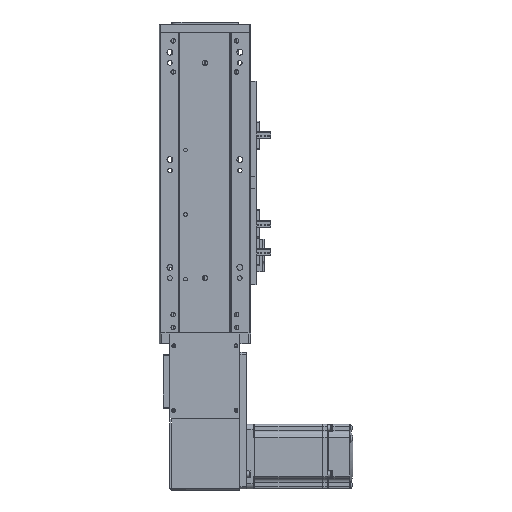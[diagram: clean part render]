
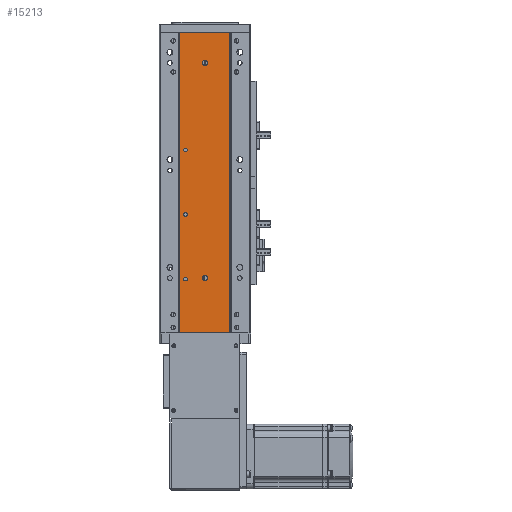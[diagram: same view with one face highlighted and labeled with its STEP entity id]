
A CAD part, front view. The second image highlights one B-rep face of the part: STEP entity #15213.
In plain terms, the highlighted planar face has unit normal (0, -1, 0).
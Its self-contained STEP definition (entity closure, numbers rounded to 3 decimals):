
#2155 = AXIS2_PLACEMENT_3D ( 'NONE', #67167, #67183, #67189 ) ;
#5475 = CARTESIAN_POINT ( 'NONE',  ( 0., 46.262, 279. ) ) ;
#5546 = DIRECTION ( 'NONE',  ( 1., 0., 0. ) ) ;
#5648 = CARTESIAN_POINT ( 'NONE',  ( 0., 46.262, 0. ) ) ;
#5668 = DIRECTION ( 'NONE',  ( 1., 0., 0. ) ) ;
#5909 = CARTESIAN_POINT ( 'NONE',  ( 144.878, 46.262, 251. ) ) ;
#5932 = DIRECTION ( 'NONE',  ( 0., 1., 0. ) ) ;
#5934 = DIRECTION ( 'NONE',  ( 0., 0., 1. ) ) ;
#5936 = CARTESIAN_POINT ( 'NONE',  ( 126.878, 46.262, 50. ) ) ;
#5953 = DIRECTION ( 'NONE',  ( 0., 0., -1. ) ) ;
#5974 = DIRECTION ( 'NONE',  ( 0., -1., 0. ) ) ;
#6020 = DIRECTION ( 'NONE',  ( 0., 1., 0. ) ) ;
#6036 = DIRECTION ( 'NONE',  ( 0., 0., 1. ) ) ;
#6087 = CARTESIAN_POINT ( 'NONE',  ( 126.878, 46.262, 110. ) ) ;
#6112 = DIRECTION ( 'NONE',  ( 0., 0., -1. ) ) ;
#6152 = DIRECTION ( 'NONE',  ( 0., -1., 0. ) ) ;
#6155 = DIRECTION ( 'NONE',  ( 0., 0., -1. ) ) ;
#6173 = CARTESIAN_POINT ( 'NONE',  ( 144.878, 46.262, 51. ) ) ;
#6174 = CARTESIAN_POINT ( 'NONE',  ( 121.584, 46.262, 279. ) ) ;
#6201 = DIRECTION ( 'NONE',  ( 0., 1., 0. ) ) ;
#6243 = CARTESIAN_POINT ( 'NONE',  ( 168.171, 46.262, 279. ) ) ;
#6264 = CARTESIAN_POINT ( 'NONE',  ( 126.878, 46.262, 170. ) ) ;
#6266 = DIRECTION ( 'NONE',  ( 0., 0., 1. ) ) ;
#6275 = DIRECTION ( 'NONE',  ( 0., 0., -1. ) ) ;
#7052 = CIRCLE ( 'NONE', #29335, 2.5 ) ;
#7064 = CIRCLE ( 'NONE', #29316, 1.65 ) ;
#7085 = LINE ( 'NONE', #5648, #7103 ) ;
#7103 = VECTOR ( 'NONE', #5668, 1000. ) ;
#7269 = CIRCLE ( 'NONE', #29331, 1.65 ) ;
#7644 = LINE ( 'NONE', #5475, #7645 ) ;
#7645 = VECTOR ( 'NONE', #5546, 1000. ) ;
#10292 = DIRECTION ( 'NONE',  ( 0., 1., 0. ) ) ;
#10313 = DIRECTION ( 'NONE',  ( 0., 0., 1. ) ) ;
#10319 = CARTESIAN_POINT ( 'NONE',  ( 126.878, 46.262, 50. ) ) ;
#10387 = DIRECTION ( 'NONE',  ( 0., 0., 1. ) ) ;
#10389 = CARTESIAN_POINT ( 'NONE',  ( 126.878, 46.262, 110. ) ) ;
#10402 = DIRECTION ( 'NONE',  ( 0., 0., -1. ) ) ;
#10403 = DIRECTION ( 'NONE',  ( 0., 1., 0. ) ) ;
#10412 = DIRECTION ( 'NONE',  ( 0., -1., 0. ) ) ;
#10416 = CARTESIAN_POINT ( 'NONE',  ( 144.878, 46.262, 51. ) ) ;
#10593 = DIRECTION ( 'NONE',  ( 0., 0., -1. ) ) ;
#10594 = DIRECTION ( 'NONE',  ( 0., -1., 0. ) ) ;
#10596 = CARTESIAN_POINT ( 'NONE',  ( 126.878, 46.262, 170. ) ) ;
#10604 = DIRECTION ( 'NONE',  ( 0., 1., 0. ) ) ;
#10607 = DIRECTION ( 'NONE',  ( 0., 0., 1. ) ) ;
#10611 = CARTESIAN_POINT ( 'NONE',  ( 144.878, 46.262, 251. ) ) ;
#11394 = CIRCLE ( 'NONE', #29106, 2.5 ) ;
#11425 = CIRCLE ( 'NONE', #29031, 1.65 ) ;
#11513 = CIRCLE ( 'NONE', #29089, 2.5 ) ;
#11515 = CIRCLE ( 'NONE', #29123, 1.65 ) ;
#11588 = CIRCLE ( 'NONE', #29091, 1.65 ) ;
#15213 = ADVANCED_FACE ( 'NONE', ( #69873, #69867, #69833, #69829, #69874, #69830 ), #67151, .F. ) ;
#25982 = EDGE_LOOP ( 'NONE', ( #35059, #35054, #35026, #35064 ) ) ;
#25996 = EDGE_LOOP ( 'NONE', ( #35046, #35080 ) ) ;
#26011 = EDGE_LOOP ( 'NONE', ( #35075, #35031 ) ) ;
#26015 = EDGE_LOOP ( 'NONE', ( #35040, #35036 ) ) ;
#26034 = EDGE_LOOP ( 'NONE', ( #35022, #35049 ) ) ;
#26044 = EDGE_LOOP ( 'NONE', ( #35055, #35025 ) ) ;
#29031 = AXIS2_PLACEMENT_3D ( 'NONE', #10596, #10604, #10607 ) ;
#29089 = AXIS2_PLACEMENT_3D ( 'NONE', #10416, #10412, #10402 ) ;
#29091 = AXIS2_PLACEMENT_3D ( 'NONE', #10389, #10403, #10387 ) ;
#29106 = AXIS2_PLACEMENT_3D ( 'NONE', #10611, #10594, #10593 ) ;
#29123 = AXIS2_PLACEMENT_3D ( 'NONE', #10319, #10292, #10313 ) ;
#29316 = AXIS2_PLACEMENT_3D ( 'NONE', #5936, #5932, #5934 ) ;
#29329 = AXIS2_PLACEMENT_3D ( 'NONE', #6173, #6152, #6112 ) ;
#29331 = AXIS2_PLACEMENT_3D ( 'NONE', #6087, #6020, #6036 ) ;
#29335 = AXIS2_PLACEMENT_3D ( 'NONE', #5909, #5974, #5953 ) ;
#29406 = AXIS2_PLACEMENT_3D ( 'NONE', #6264, #6201, #6266 ) ;
#35022 = ORIENTED_EDGE ( 'NONE', *, *, #43451, .T. ) ;
#35025 = ORIENTED_EDGE ( 'NONE', *, *, #42379, .T. ) ;
#35026 = ORIENTED_EDGE ( 'NONE', *, *, #43307, .F. ) ;
#35031 = ORIENTED_EDGE ( 'NONE', *, *, #42451, .T. ) ;
#35036 = ORIENTED_EDGE ( 'NONE', *, *, #42473, .F. ) ;
#35040 = ORIENTED_EDGE ( 'NONE', *, *, #43493, .F. ) ;
#35046 = ORIENTED_EDGE ( 'NONE', *, *, #43430, .F. ) ;
#35049 = ORIENTED_EDGE ( 'NONE', *, *, #42479, .T. ) ;
#35054 = ORIENTED_EDGE ( 'NONE', *, *, #43519, .F. ) ;
#35055 = ORIENTED_EDGE ( 'NONE', *, *, #43530, .T. ) ;
#35059 = ORIENTED_EDGE ( 'NONE', *, *, #43353, .T. ) ;
#35064 = ORIENTED_EDGE ( 'NONE', *, *, #43498, .T. ) ;
#35075 = ORIENTED_EDGE ( 'NONE', *, *, #43423, .T. ) ;
#35080 = ORIENTED_EDGE ( 'NONE', *, *, #42367, .F. ) ;
#37370 = CARTESIAN_POINT ( 'NONE',  ( 126.878, 46.262, 51.65 ) ) ;
#37373 = CARTESIAN_POINT ( 'NONE',  ( 144.878, 46.262, 253.5 ) ) ;
#37377 = CARTESIAN_POINT ( 'NONE',  ( 144.878, 46.262, 53.5 ) ) ;
#37386 = CARTESIAN_POINT ( 'NONE',  ( 126.878, 46.262, 48.35 ) ) ;
#37398 = CARTESIAN_POINT ( 'NONE',  ( 126.878, 46.262, 171.65 ) ) ;
#37402 = CARTESIAN_POINT ( 'NONE',  ( 144.878, 46.262, 48.5 ) ) ;
#37447 = CARTESIAN_POINT ( 'NONE',  ( 126.878, 46.262, 108.35 ) ) ;
#37484 = CARTESIAN_POINT ( 'NONE',  ( 126.878, 46.262, 111.65 ) ) ;
#38243 = CARTESIAN_POINT ( 'NONE',  ( 168.171, 46.262, 0. ) ) ;
#38426 = CARTESIAN_POINT ( 'NONE',  ( 121.584, 46.262, 279. ) ) ;
#38438 = CARTESIAN_POINT ( 'NONE',  ( 121.584, 46.262, 0. ) ) ;
#38471 = CARTESIAN_POINT ( 'NONE',  ( 168.171, 46.262, 279. ) ) ;
#42367 = EDGE_CURVE ( 'NONE', #44529, #44399, #11394, .T. ) ;
#42379 = EDGE_CURVE ( 'NONE', #44319, #44441, #11425, .T. ) ;
#42451 = EDGE_CURVE ( 'NONE', #44461, #44435, #11515, .T. ) ;
#42473 = EDGE_CURVE ( 'NONE', #44489, #44525, #11513, .T. ) ;
#42479 = EDGE_CURVE ( 'NONE', #44617, #44613, #11588, .T. ) ;
#43307 = EDGE_CURVE ( 'NONE', #49475, #49467, #7644, .T. ) ;
#43353 = EDGE_CURVE ( 'NONE', #49469, #49397, #7085, .T. ) ;
#43423 = EDGE_CURVE ( 'NONE', #44435, #44461, #7064, .T. ) ;
#43430 = EDGE_CURVE ( 'NONE', #44399, #44529, #7052, .T. ) ;
#43451 = EDGE_CURVE ( 'NONE', #44613, #44617, #7269, .T. ) ;
#43493 = EDGE_CURVE ( 'NONE', #44525, #44489, #60996, .T. ) ;
#43498 = EDGE_CURVE ( 'NONE', #49475, #49469, #60961, .T. ) ;
#43519 = EDGE_CURVE ( 'NONE', #49467, #49397, #61023, .T. ) ;
#43530 = EDGE_CURVE ( 'NONE', #44441, #44319, #61001, .T. ) ;
#44319 = VERTEX_POINT ( 'NONE', #65122 ) ;
#44399 = VERTEX_POINT ( 'NONE', #65113 ) ;
#44435 = VERTEX_POINT ( 'NONE', #37370 ) ;
#44441 = VERTEX_POINT ( 'NONE', #37398 ) ;
#44461 = VERTEX_POINT ( 'NONE', #37386 ) ;
#44489 = VERTEX_POINT ( 'NONE', #37377 ) ;
#44525 = VERTEX_POINT ( 'NONE', #37402 ) ;
#44529 = VERTEX_POINT ( 'NONE', #37373 ) ;
#44613 = VERTEX_POINT ( 'NONE', #37484 ) ;
#44617 = VERTEX_POINT ( 'NONE', #37447 ) ;
#49397 = VERTEX_POINT ( 'NONE', #38243 ) ;
#49467 = VERTEX_POINT ( 'NONE', #38471 ) ;
#49469 = VERTEX_POINT ( 'NONE', #38438 ) ;
#49475 = VERTEX_POINT ( 'NONE', #38426 ) ;
#60959 = VECTOR ( 'NONE', #6275, 1000. ) ;
#60961 = LINE ( 'NONE', #6174, #60971 ) ;
#60971 = VECTOR ( 'NONE', #6155, 1000. ) ;
#60996 = CIRCLE ( 'NONE', #29329, 2.5 ) ;
#61001 = CIRCLE ( 'NONE', #29406, 1.65 ) ;
#61023 = LINE ( 'NONE', #6243, #60959 ) ;
#65113 = CARTESIAN_POINT ( 'NONE',  ( 144.878, 46.262, 248.5 ) ) ;
#65122 = CARTESIAN_POINT ( 'NONE',  ( 126.878, 46.262, 168.35 ) ) ;
#67151 = PLANE ( 'NONE',  #2155 ) ;
#67167 = CARTESIAN_POINT ( 'NONE',  ( 0., 46.262, 279. ) ) ;
#67183 = DIRECTION ( 'NONE',  ( 0., 1., 0. ) ) ;
#67189 = DIRECTION ( 'NONE',  ( 0., 0., 1. ) ) ;
#69829 = FACE_BOUND ( 'NONE', #26015, .T. ) ;
#69830 = FACE_OUTER_BOUND ( 'NONE', #25982, .T. ) ;
#69833 = FACE_BOUND ( 'NONE', #26011, .T. ) ;
#69867 = FACE_BOUND ( 'NONE', #26034, .T. ) ;
#69873 = FACE_BOUND ( 'NONE', #26044, .T. ) ;
#69874 = FACE_BOUND ( 'NONE', #25996, .T. ) ;
